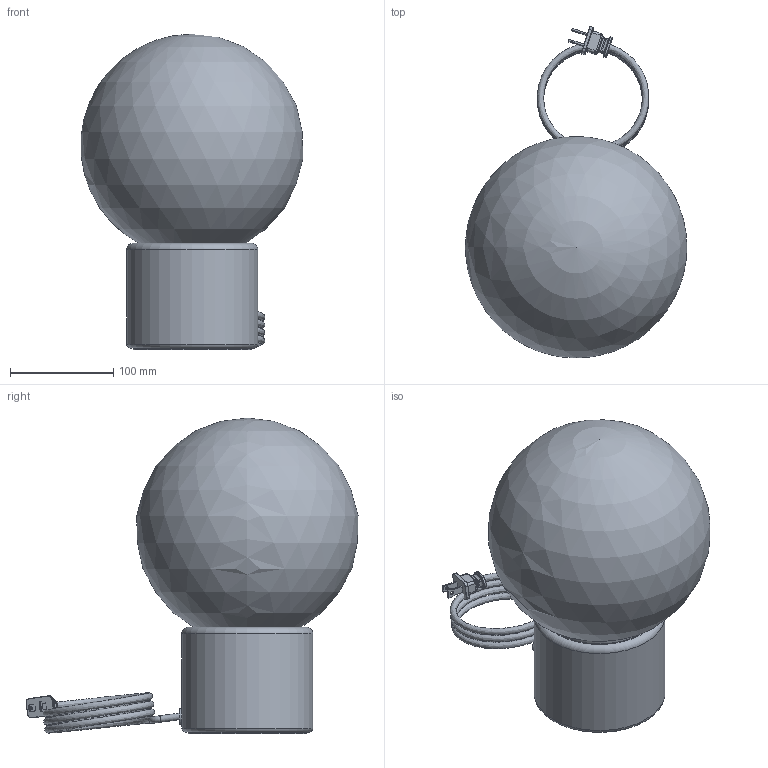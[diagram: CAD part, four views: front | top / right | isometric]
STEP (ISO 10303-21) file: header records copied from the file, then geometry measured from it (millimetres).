
FILE_DESCRIPTION(/* description */ ('','CAx-IF Rec.Pracs.---Representation and Presentation of Product Manufacturing Information (PMI)---4.0---2014-10-13'),/* implementation_level */ '2;1');
FILE_NAME(/* name */ 'Niche - Solitaire Petite - Ionic Table Lamp - Opalia.step',/* time_stamp */ '2025-02-10T09:08:11-05:00',/* author */ (''),/* organization */ (''),/* preprocessor_version */ 'ST-DEVELOPER v20',/* originating_system */ 'Autodesk Translation Framework v13.20.0.188',/* authorisation */ '');
FILE_SCHEMA (('AP242_MANAGED_MODEL_BASED_3D_ENGINEERING_MIM_LF { 1 0 10303 442 1 1 4 }'));
Length unit declared in the file: inch
Products named in the file (17): Marble Base - Ionic Table Lamp - Ketra Ready - 120V - Opalia Collecti
on; Marble Base - Ionic Table Lamp - Ketra Ready - 120V; Coiled - SVT (Blk Fabric); Marble Base; 90701000093 ¹â°åE27µÆ×ù_¦Õ375
9mm_ºÚÉ«_CEÈÏÖ¤; 90701000096 M10ÑÀ¹Ü_M10L25mmÄÚ¿×¦
Õ7_²ÄÖÊ£ºÌú_¶Æ°×Ð
¿_RoHS; 90701000098 Ñ¹Ïß°å_PP_314612_º
ÚÉ«; 90701000097 M10Áù½Ç±¡ÂÝÄ¸_M10
_²ÄÖÊ£ºÌú_¶Æ°×Ð¿
_RoHS; M10ÄÚ¾â³ÝËø½ôµæÈ¦
_²ÄÖÊ£ºÌú_¶Æ°×Ð¿
_RoHS; Plastic Insert; Silicone Gasket; Neoprene Pad; 2-Pole Plug End; Rubber Grommet; Ketra - A20 Tunable Lamp; Ketra A20; Solitaire Petite (Orb-8.5)
Assembly tree (16 placements, depth 3):
  Marble Base - Ionic Table Lamp - Ketra Ready - 120V - Opalia Collecti
on
    Marble Base - Ionic Table Lamp - Ketra Ready - 120V
      Coiled - SVT (Blk Fabric)
      Marble Base
      90701000093 ¹â°åE27µÆ×ù_¦Õ375
9mm_ºÚÉ«_CEÈÏÖ¤
      90701000096 M10ÑÀ¹Ü_M10L25mmÄÚ¿×¦
Õ7_²ÄÖÊ£ºÌú_¶Æ°×Ð
¿_RoHS
      90701000098 Ñ¹Ïß°å_PP_314612_º
ÚÉ«
      90701000097 M10Áù½Ç±¡ÂÝÄ¸_M10
_²ÄÖÊ£ºÌú_¶Æ°×Ð¿
_RoHS
      M10ÄÚ¾â³ÝËø½ôµæÈ¦
_²ÄÖÊ£ºÌú_¶Æ°×Ð¿
_RoHS
      Plastic Insert
      Silicone Gasket
      Neoprene Pad
      2-Pole Plug End
      Rubber Grommet
    Ketra - A20 Tunable Lamp
      Ketra A20
    Solitaire Petite (Orb-8.5)
Bounding box: 214.83 x 321.46 x 305.75 mm (x, y, z)
Volume: 1420028.5 mm3; surface area: 569565.8 mm2
Topology: 14 solids, 15 shells, 1987 faces, 5283 edges, 3472 vertices
Faces by surface type: plane 981, bspline 814, cylinder 129, torus 32, cone 28, sphere 3
Full cylindrical faces by diameter (mm): 3.175 x2, 4.092 x1, 6.35 x2, 7 x1, 7.62 x1, 8.128 x1, 8.3 x1, 8.376 x14, 10 x16, 10.16 x1, 10.5 x1, 10.922 x1, 11 x1, 11.684 x1, 14 x1, 15.24 x2, 16 x1, 21 x1, 25.4 x3, 27 x1, 35.5 x1, 37.5 x1, 39.37 x1, 41.402 x1, 80.518 x1, 82.55 x1, 93.98 x2, 98.044 x1, 100.076 x1, 100.635 x1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
Entity records: 76370 total; most frequent: CARTESIAN_POINT 31803, ORIENTED_EDGE 10558, DIRECTION 6347, EDGE_CURVE 5280, VERTEX_POINT 3472, LINE 3257, VECTOR 3257, EDGE_LOOP 2164
